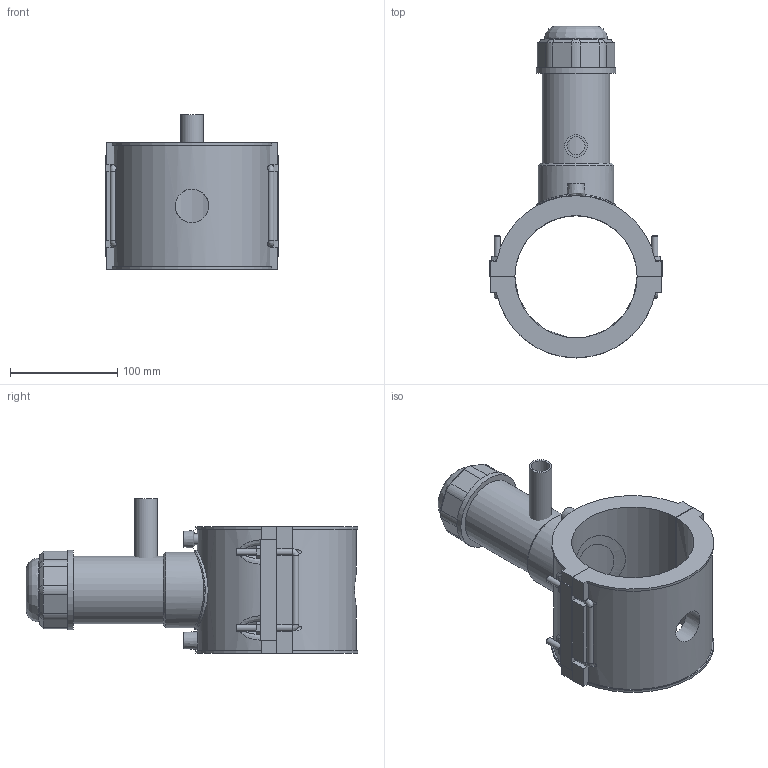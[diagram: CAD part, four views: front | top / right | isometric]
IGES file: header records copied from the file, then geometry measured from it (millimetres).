
Global section: file name: 5963BBP3040005.ipt; native system: Autodesk Inventor 2019; preprocessor: unknown; author: KIM; date: 20210830.101526; units: inch
Bounding box: 161 x 309.74 x 144.15 mm (x, y, z)
Volume: 1219888.4 mm3; surface area: 215620.1 mm2
Topology: 5 solids, 6 shells, 195 faces, 480 edges, 304 vertices
Faces by surface type: plane 112, cylinder 38, revolution 17, cone 15, bspline 13
Full cylindrical faces by diameter (mm): 4 x2, 6 x8, 21.2 x1, 59.332 x1, 63.04 x1, 70.457 x1, 74.165 x2
